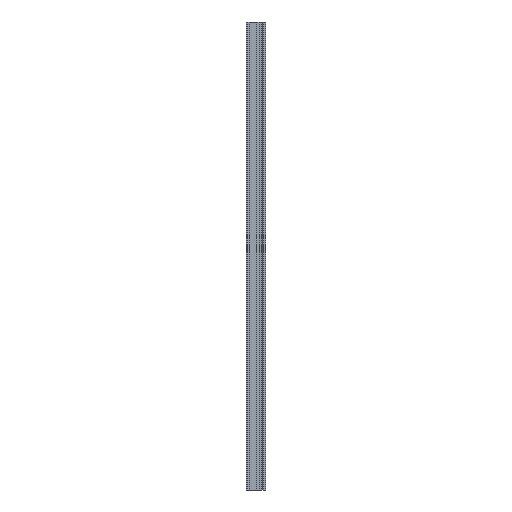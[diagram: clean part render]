
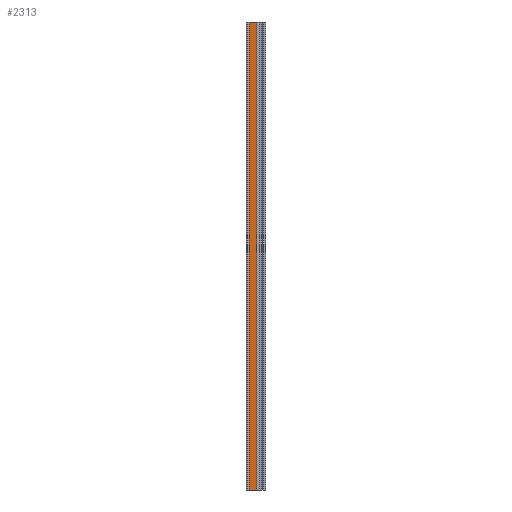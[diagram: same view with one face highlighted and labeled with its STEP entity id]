
A CAD part, left-side view. The second image highlights one B-rep face of the part: STEP entity #2313.
In plain terms, the highlighted planar face has unit normal (-1, 0, 0).
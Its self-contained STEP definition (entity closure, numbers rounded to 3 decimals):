
#271=FACE_OUTER_BOUND('',#419,.T.);
#419=EDGE_LOOP('',(#2059,#2060,#2061,#2062));
#566=LINE('',#3580,#816);
#661=LINE('',#3795,#911);
#662=LINE('',#3798,#912);
#663=LINE('',#3799,#913);
#816=VECTOR('',#2937,10.);
#911=VECTOR('',#3128,10.);
#912=VECTOR('',#3131,10.);
#913=VECTOR('',#3132,10.);
#1067=VERTEX_POINT('',#3577);
#1068=VERTEX_POINT('',#3579);
#1140=VERTEX_POINT('',#3793);
#1141=VERTEX_POINT('',#3797);
#1351=EDGE_CURVE('',#1067,#1068,#566,.T.);
#1459=EDGE_CURVE('',#1140,#1068,#661,.T.);
#1460=EDGE_CURVE('',#1141,#1140,#662,.T.);
#1461=EDGE_CURVE('',#1141,#1067,#663,.T.);
#2059=ORIENTED_EDGE('',*,*,#1460,.T.);
#2060=ORIENTED_EDGE('',*,*,#1459,.T.);
#2061=ORIENTED_EDGE('',*,*,#1351,.F.);
#2062=ORIENTED_EDGE('',*,*,#1461,.F.);
#2203=PLANE('',#2526);
#2313=ADVANCED_FACE('',(#271),#2203,.T.);
#2526=AXIS2_PLACEMENT_3D('',#3796,#3129,#3130);
#2937=DIRECTION('',(0.,-1.,0.));
#3128=DIRECTION('',(0.,0.,1.));
#3129=DIRECTION('center_axis',(-1.,0.,0.));
#3130=DIRECTION('ref_axis',(0.,-1.,0.));
#3131=DIRECTION('',(0.,-1.,0.));
#3132=DIRECTION('',(0.,0.,1.));
#3577=CARTESIAN_POINT('',(-13.5,12.5,357.));
#3579=CARTESIAN_POINT('',(-13.5,7.,357.));
#3580=CARTESIAN_POINT('',(-13.5,12.5,357.));
#3793=CARTESIAN_POINT('',(-13.5,7.,0.));
#3795=CARTESIAN_POINT('',(-13.5,7.,0.));
#3796=CARTESIAN_POINT('Origin',(-13.5,12.5,0.));
#3797=CARTESIAN_POINT('',(-13.5,12.5,0.));
#3798=CARTESIAN_POINT('',(-13.5,12.5,0.));
#3799=CARTESIAN_POINT('',(-13.5,12.5,0.));
